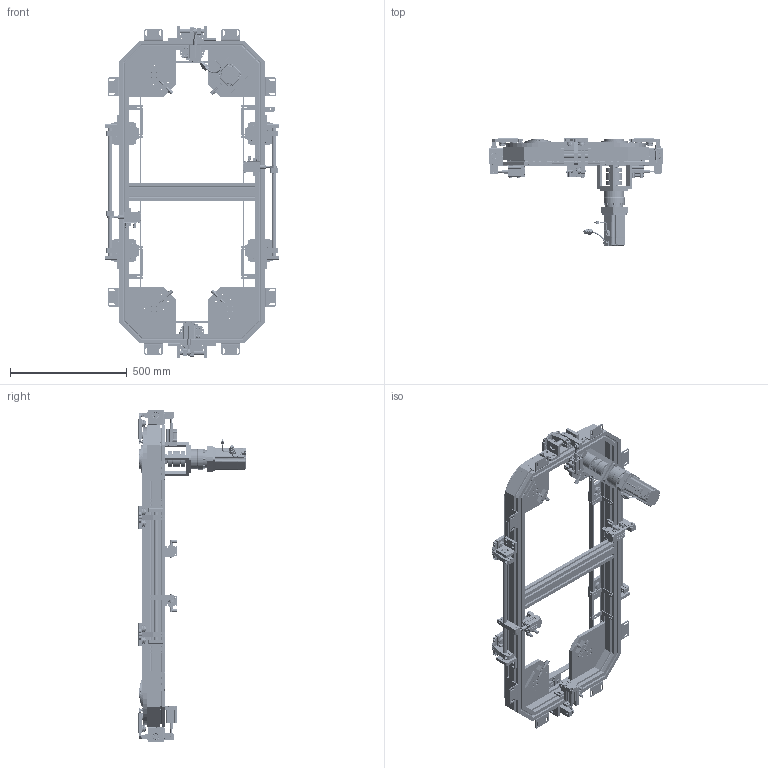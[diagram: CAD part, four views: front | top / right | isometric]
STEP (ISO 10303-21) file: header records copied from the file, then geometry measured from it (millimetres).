
FILE_DESCRIPTION (( 'STEP AP214' ), '1' );
FILE_NAME ('9.14-LHDL-L1.STEP', '2022-09-14T01:45:45', ( '' ), ( '' ), 'SwSTEP 2.0', 'SolidWorks 2016', '' );
FILE_SCHEMA (( 'AUTOMOTIVE_DESIGN' ));
Length unit declared in the file: millimetre
Products named in the file (71): 々湍1-1^9.14-LHDL-L1; 9.14-LHDL-SC21-ECB01-TB1-ァ詰蟀諉粣-L; 9.14-LHDL-SC21-DGA01-TB1-6006植雄粣傷裔-L; 9.14-LHDL-SC21-AMA01-TB1-蚐碟-L; 9.14-LHDL-SC21-DBB01-TB1-6006湍謫翋雄粣陑-L; 9.14-LHDL-联轴器68-75-22-22-6T-L; 9.14-LHDL-SC19-AIA01-LA1-幗謫蚳蚚蹟譫-L; 9.14-LHDL-萇儂750W-L; 9.14-LHDL-SC21-ADA02-TB1-々湍蟀諉蜇璃-L; 9.14-LHDL-SC21-DHC01-TB1-桲踡蹟佪-L; 9.14-LHDL-SC21-DFA02-TB1-6006倰第植雄粣陑-L; 9.14-LHDL-SC21-DHA01-TB1-桲踡輸-L; 9.14-LHDL-SC21-DCA01-TB1-翋雄粣傷裔-255-L; 9.14-LHDL-SC21-EFA01-TB1-型材感应开关支架-定位-L; 9.14-LHDL-6006植雄郪-倰第-L; 9.14-LHDL-邧啊旋嫖粣-L; 9.14-LHDL-SC19-AFA01-LA1-幗謫-L; 9.14-LHDL-SC21-EDB02-TB1-ァ詰蟀諉邧嫉-L; 9.14-LHDL-翋雄菁啣255-L; 9.14-LHDL-熬厒儂DAB90-L2-L; 9.14-LHDL-SC21-DEA03-TB1-6006植雄粣陑菁釱-L; 9.14-LHDL-SC19-ANA01-LA1-肮陑幗謫粣-L; 9.14-LHDL-双定位摆臂组-型材外-L; 9.14-LHDL-6006-2Z-L; 9.14-LHDL-SC19-AHA01-LA1-幗謫蚳蚚菜え-L; 9.14-LHDL-SC21-AEA01-TB1-摆臂式定位附件-外-L; 9.14-LHDL-E2B_S08LN04_WP_C1（NPN）-L; 9.14-LHDL-4080型材矩形中间连接255-L; 9.14-LHDL-SC19-ABA02-LA1-眻寢酗僅B-L; 9.14-LHDL-SC21-FAA01-TB1-6006U倰鎮湛盓殤-L; 9.14-LHDL-L1; 9.14-LHDL-ACQ 32×20S_ACQ32-100超薄气缸-L_ACQ 32×20-1; 9.14-LHDL-SC19-ABA01-LA1-眻寢酗僅A-L; 9.14-LHDL-SC21-EDA02-TB1-ァ詰蟀諉等嫉-L; 9.14-LHDL-型材感应开关组-定位-L; 9.14-LHDL-随动器16-L_KRV 168; 9.14-LHDL-SC21-ACA02-TB1-轻载环轨255-L; 9.14-LHDL-SC21-EEA02-TB1-雄薯啊旋-L; 9.14-LHDL-255-撻倛倰第郪-L; 9.14-LHDL-SC21-EAA01-TB1-倰第ァ詰粣創釱-俋-L_BHLC6003ZZ-40-KCA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
Assembly tree (141 placements, depth 4):
  9.14-LHDL-L1
    9.14-LHDL-255撻倛々湍GMP郪-L
      9.14-LHDL-SC19-ABA01-LA1-眻寢酗僅A-L  x2
      9.14-LHDL-SC21-ACA02-TB1-轻载环轨255-L  x4
      9.14-LHDL-255-々湍苤陬郪-L  x6
        9.14-LHDL-SC21-AAA-TB1-苤陬啣255-L
        9.14-LHDL-SC21-AEA01-TB1-摆臂式定位附件-外-L
        9.14-LHDL-SC21-AGA01-TB1-幗謫脹詢菜え-L
        9.14-LHDL-SC21-AMA01-TB1-蚐碟-L
        9.14-LHDL-SC19-AFA01-LA1-幗謫-L
        9.14-LHDL-SC19-ANA01-LA1-肮陑幗謫粣-L
        9.14-LHDL-SC19-AOA01-LA1-ぇ陑幗謫粣-L
        9.14-LHDL-SC19-AIA01-LA1-幗謫蚳蚚蹟譫-L
        9.14-LHDL-SC19-AHA01-LA1-幗謫蚳蚚菜え-L
        9.14-LHDL-SC21-ADA02-TB1-々湍蟀諉蜇璃-L
        9.14-LHDL-SC21-ANA01-TB1-鬥芛M8蹟裝-L
        9.14-LHDL-SC21-APA01-TB1-々湍諶璃-L
      9.14-LHDL-SC19-ABA02-LA1-眻寢酗僅B-L  x2
    9.14-LHDL-255-撻倛倰第郪-L
      9.14-LHDL-4080倰第撻倛酗晚255-L  x2
      9.14-LHDL-4080型材矩形中间连接255-L
      9.14-LHDL-SC21-GBA09-TB1-訇晚倰第255-L  x4
      9.14-LHDL-4080倰第撻倛傻晚255-L  x2
    9.14-LHDL-植雄菁啣255-L  x3
    9.14-LHDL-翋雄菁啣255-L
    9.14-LHDL-255植雄謫郪-倰第-L  x3
      9.14-LHDL-6006植雄郪-倰第-L
        9.14-LHDL-SC21-DFA02-TB1-6006倰第植雄粣陑-L
        9.14-LHDL-SC21-DEA03-TB1-6006植雄粣陑菁釱-L
        9.14-LHDL-6006-2Z-L  x2
        9.14-LHDL-SC21-DGA01-TB1-6006植雄粣傷裔-L
        9.14-LHDL-SC21-DHA01-TB1-桲踡輸-L
        9.14-LHDL-SC21-DHC01-TB1-桲踡蹟佪-L
      9.14-LHDL-SC21-BBA02-TB1-255植雄謫-L
    9.14-LHDL-255翋雄謫郪-L
      9.14-LHDL-SC21-DAB01-TB1-翋雄粣創釱6006-L
      9.14-LHDL-SC21-DBB01-TB1-6006湍謫翋雄粣陑-L
      9.14-LHDL-6006-2Z-L  x2
      9.14-LHDL-籵蚚桲踡郪-L
        9.14-LHDL-SC21-DHA01-TB1-桲踡輸-L
        9.14-LHDL-SC21-DHB01-TB1-桲踡蜇璃-L
        9.14-LHDL-SC21-DHC01-TB1-桲踡蹟佪-L
      9.14-LHDL-SC21-DDA02-TB1-M27-3.0滅侂蹟譫-L
      9.14-LHDL-SC21-DCA01-TB1-翋雄粣傷裔-255-L
      9.14-LHDL-SC21-BAA02-TB1-翋雄謫36C-L_AT10x40-20A
      9.14-LHDL-SC21-BCA02-TB1-皮带挡圈255-L  x2
    9.14-LHDL-々湍結啣郪璃-L  x4
      9.14-LHDL-SC21-BDA01-TB1-々湍結啣-L
      9.14-LHDL-SC21-CCB02-TB1-型材皮带挡板-链槽支架-L
    9.14-LHDL-单定位摆臂组-型材外-L  x2
      9.14-LHDL-SC21-EAA01-TB1-倰第ァ詰粣創釱-俋-L_BHLC6003ZZ-40-KCA
      9.14-LHDL-SC21-ECA01-TB1-啊旋蟀諉粣-L
      9.14-LHDL-SC21-ECB01-TB1-ァ詰蟀諉粣-L
      9.14-LHDL-SC21-EEA02-TB1-雄薯啊旋-L
      9.14-LHDL-SC21-EEB02-TB1-隅弇啊旋-L
      9.14-LHDL-SC21-EDA02-TB1-ァ詰蟀諉等嫉-L
      9.14-LHDL-SC21-EDB02-TB1-ァ詰蟀諉邧嫉-L
      9.14-LHDL-SC21-EGA01-TB1-等啊旋嫖粣-L
      9.14-LHDL-6003-L
      9.14-LHDL-ACQ 32×20S_ACQ32-100超薄气缸-L_ACQ 32×20-1
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Bounding box: 745 x 458.3 x 1419 mm (x, y, z)
Volume: 16913038.7 mm3; surface area: 5641211.5 mm2
Topology: 623 solids, 632 shells, 15883 faces, 40494 edges, 25887 vertices
Faces by surface type: plane 7035, cylinder 5492, bspline 2434, cone 758, torus 137, sphere 27
Entity records: 151552 total; most frequent: CARTESIAN_POINT 45941, ORIENTED_EDGE 21312, DIRECTION 20517, EDGE_CURVE 10656, AXIS2_PLACEMENT_3D 7439, VERTEX_POINT 6976, VECTOR 5639, LINE 5639
